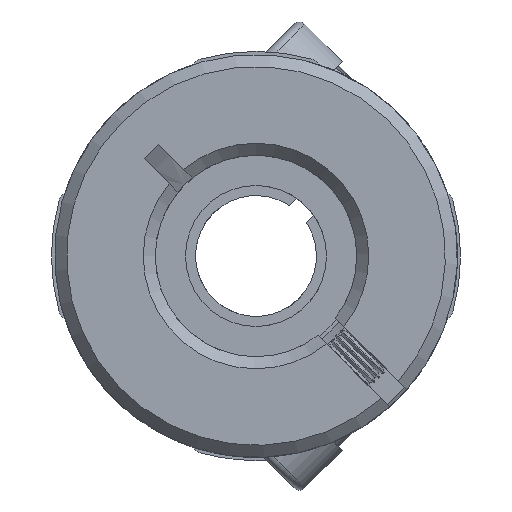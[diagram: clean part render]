
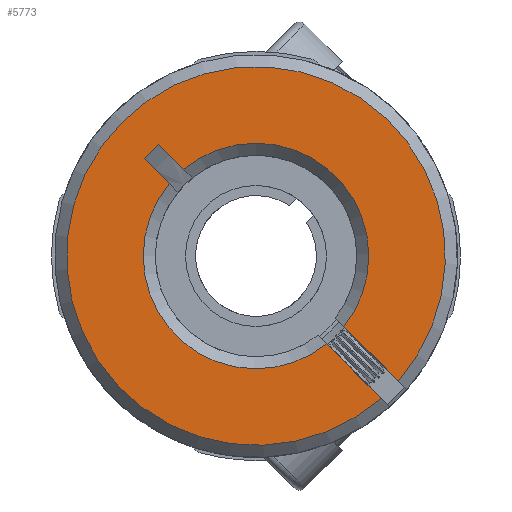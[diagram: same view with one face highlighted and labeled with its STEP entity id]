
A CAD part, front view. The second image highlights one B-rep face of the part: STEP entity #5773.
In plain terms, the highlighted planar face has unit normal (0, -1, 0).
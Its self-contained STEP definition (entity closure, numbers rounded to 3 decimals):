
#429 = CIRCLE ( 'NONE', #1201, 9.4 ) ;
#527 = DIRECTION ( 'NONE',  ( 0.707, 0., -0.707 ) ) ;
#600 = CARTESIAN_POINT ( 'NONE',  ( -4.842, -12.6, 5.549 ) ) ;
#695 = EDGE_CURVE ( 'NONE', #4207, #2681, #11732, .T. ) ;
#757 = EDGE_CURVE ( 'NONE', #8935, #6550, #10961, .T. ) ;
#1116 = DIRECTION ( 'NONE',  ( 0.707, 0., -0.707 ) ) ;
#1201 = AXIS2_PLACEMENT_3D ( 'NONE', #1972, #11368, #1116 ) ;
#1458 = AXIS2_PLACEMENT_3D ( 'NONE', #3167, #2357, #9686 ) ;
#1468 = CARTESIAN_POINT ( 'NONE',  ( 0., -12.6, 0. ) ) ;
#1746 = ORIENTED_EDGE ( 'NONE', *, *, #3452, .F. ) ;
#1803 = CARTESIAN_POINT ( 'NONE',  ( -4.298, -12.6, 3.59 ) ) ;
#1972 = CARTESIAN_POINT ( 'NONE',  ( 0., -12.6, 0. ) ) ;
#1977 = ORIENTED_EDGE ( 'NONE', *, *, #7575, .T. ) ;
#2085 = VECTOR ( 'NONE', #11809, 1000. ) ;
#2357 = DIRECTION ( 'NONE',  ( 0., 1., 0. ) ) ;
#2546 = DIRECTION ( 'NONE',  ( 0.707, 0., -0.707 ) ) ;
#2554 = EDGE_CURVE ( 'NONE', #4207, #5841, #4814, .T. ) ;
#2681 = VERTEX_POINT ( 'NONE', #11942 ) ;
#2694 = VERTEX_POINT ( 'NONE', #12030 ) ;
#3167 = CARTESIAN_POINT ( 'NONE',  ( 342.528, -12.6, 364.579 ) ) ;
#3304 = CARTESIAN_POINT ( 'NONE',  ( 5.657, -12.6, -4.95 ) ) ;
#3452 = EDGE_CURVE ( 'NONE', #2694, #9488, #7370, .T. ) ;
#3485 = CARTESIAN_POINT ( 'NONE',  ( 3.934, -12.6, -3.086 ) ) ;
#4207 = VERTEX_POINT ( 'NONE', #600 ) ;
#4314 = AXIS2_PLACEMENT_3D ( 'NONE', #1468, #11810, #2546 ) ;
#4419 = CARTESIAN_POINT ( 'NONE',  ( 4.361, -12.6, -3.513 ) ) ;
#4443 = VECTOR ( 'NONE', #527, 1000. ) ;
#4445 = EDGE_LOOP ( 'NONE', ( #7249, #1977, #1746, #8153, #13213, #9433, #6542, #5742 ) ) ;
#4467 = DIRECTION ( 'NONE',  ( 0.707, 0., -0.707 ) ) ;
#4668 = DIRECTION ( 'NONE',  ( 0.707, 0., -0.707 ) ) ;
#4814 = LINE ( 'NONE', #9828, #2085 ) ;
#4848 = CARTESIAN_POINT ( 'NONE',  ( 0., -12.6, 0. ) ) ;
#4899 = LINE ( 'NONE', #5555, #9570 ) ;
#5555 = CARTESIAN_POINT ( 'NONE',  ( 3.086, -12.6, -3.934 ) ) ;
#5742 = ORIENTED_EDGE ( 'NONE', *, *, #2554, .F. ) ;
#5773 = ADVANCED_FACE ( 'NONE', ( #11361 ), #7435, .F. ) ;
#5841 = VERTEX_POINT ( 'NONE', #11658 ) ;
#5996 = VERTEX_POINT ( 'NONE', #6848 ) ;
#6126 = AXIS2_PLACEMENT_3D ( 'NONE', #4848, #12091, #10093 ) ;
#6215 = CIRCLE ( 'NONE', #6126, 5.6 ) ;
#6542 = ORIENTED_EDGE ( 'NONE', *, *, #6864, .F. ) ;
#6550 = VERTEX_POINT ( 'NONE', #1803 ) ;
#6848 = CARTESIAN_POINT ( 'NONE',  ( 6.209, -12.6, -7.058 ) ) ;
#6864 = EDGE_CURVE ( 'NONE', #5841, #6550, #7193, .T. ) ;
#7193 = LINE ( 'NONE', #8642, #4443 ) ;
#7249 = ORIENTED_EDGE ( 'NONE', *, *, #695, .T. ) ;
#7370 = LINE ( 'NONE', #3485, #10817 ) ;
#7435 = PLANE ( 'NONE',  #1458 ) ;
#7487 = DIRECTION ( 'NONE',  ( -0.707, 0., 0.707 ) ) ;
#7553 = CARTESIAN_POINT ( 'NONE',  ( 3.513, -12.6, -4.361 ) ) ;
#7575 = EDGE_CURVE ( 'NONE', #2681, #9488, #6215, .T. ) ;
#8153 = ORIENTED_EDGE ( 'NONE', *, *, #11653, .T. ) ;
#8642 = CARTESIAN_POINT ( 'NONE',  ( 4.95, -12.6, -5.657 ) ) ;
#8935 = VERTEX_POINT ( 'NONE', #7553 ) ;
#9026 = EDGE_CURVE ( 'NONE', #8935, #5996, #4899, .T. ) ;
#9433 = ORIENTED_EDGE ( 'NONE', *, *, #757, .T. ) ;
#9488 = VERTEX_POINT ( 'NONE', #4419 ) ;
#9570 = VECTOR ( 'NONE', #4668, 1000. ) ;
#9686 = DIRECTION ( 'NONE',  ( 0.707, 0., -0.707 ) ) ;
#9828 = CARTESIAN_POINT ( 'NONE',  ( -4.842, -12.6, 5.549 ) ) ;
#10093 = DIRECTION ( 'NONE',  ( 0.707, 0., -0.707 ) ) ;
#10817 = VECTOR ( 'NONE', #7487, 1000. ) ;
#10961 = CIRCLE ( 'NONE', #4314, 5.6 ) ;
#11361 = FACE_OUTER_BOUND ( 'NONE', #4445, .T. ) ;
#11368 = DIRECTION ( 'NONE',  ( 0., -1., 0. ) ) ;
#11653 = EDGE_CURVE ( 'NONE', #2694, #5996, #429, .T. ) ;
#11658 = CARTESIAN_POINT ( 'NONE',  ( -5.549, -12.6, 4.842 ) ) ;
#11732 = LINE ( 'NONE', #3304, #11905 ) ;
#11809 = DIRECTION ( 'NONE',  ( -0.707, 0., -0.707 ) ) ;
#11810 = DIRECTION ( 'NONE',  ( 0., 1., 0. ) ) ;
#11905 = VECTOR ( 'NONE', #4467, 1000. ) ;
#11942 = CARTESIAN_POINT ( 'NONE',  ( -3.59, -12.6, 4.298 ) ) ;
#12030 = CARTESIAN_POINT ( 'NONE',  ( 7.058, -12.6, -6.209 ) ) ;
#12091 = DIRECTION ( 'NONE',  ( 0., 1., 0. ) ) ;
#13213 = ORIENTED_EDGE ( 'NONE', *, *, #9026, .F. ) ;
